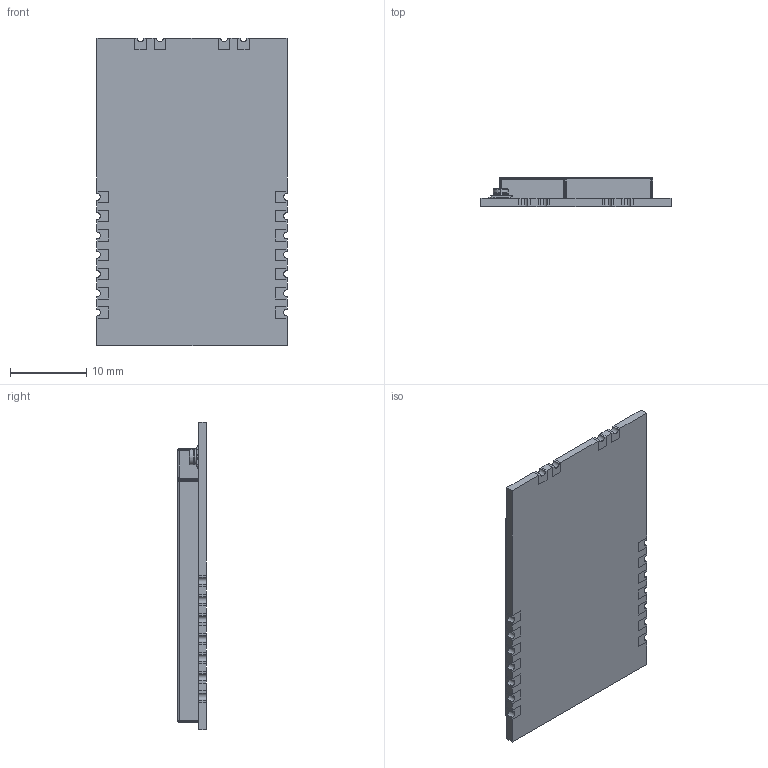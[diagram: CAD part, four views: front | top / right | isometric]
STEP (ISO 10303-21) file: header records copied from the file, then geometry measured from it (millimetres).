
FILE_DESCRIPTION (( 'STEP AP214' ), '1' );
FILE_NAME ('E22-900T30S.STEP', '2024-06-19T21:08:05', ( '' ), ( '' ), 'SwSTEP 2.0', 'SolidWorks 2021', '' );
FILE_SCHEMA (( 'AUTOMOTIVE_DESIGN' ));
Length unit declared in the file: millimetre
Products named in the file (1): E22-900T30S
Bounding box: 25 x 3.77 x 40.5 mm (x, y, z)
Volume: 1156.3 mm3; surface area: 4339.3 mm2
Topology: 25 solids, 25 shells, 493 faces, 1261 edges, 818 vertices
Faces by surface type: plane 404, cylinder 67, bspline 16, cone 6
Entity records: 15243 total; most frequent: CARTESIAN_POINT 3075, ORIENTED_EDGE 2514, DIRECTION 2297, EDGE_CURVE 1257, VECTOR 1089, LINE 1089, VERTEX_POINT 818, AXIS2_PLACEMENT_3D 604
